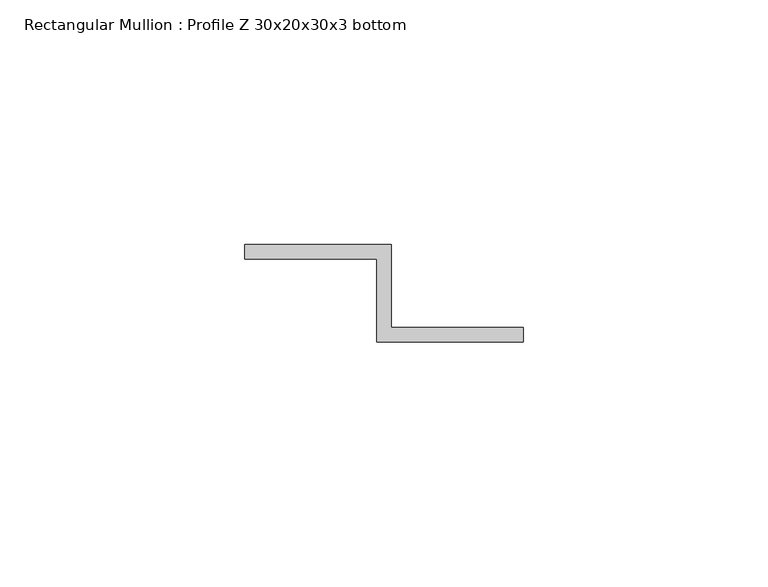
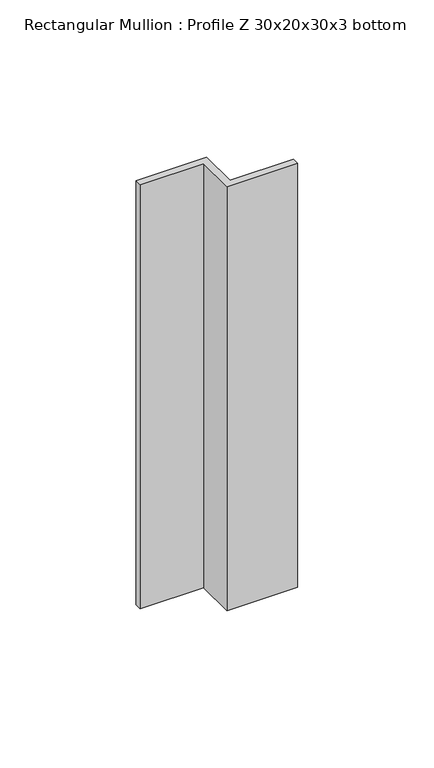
"""IFC4 building model written with IfcOpenShell, lengths in millimetres: member geometry, Rectangular Mullion : Profile Z 30x20x30x3 bottom."""

from ifc_helpers import new_model, si_unit, frame, origin, place, context, project, spatial, polyline, outline, extrude, source, transform, mapped, element, save


def rectangular_mullion_profile_z_30x20x30x3_bottom_b9145eb6(model_context):
    return source(origin(), model_context, "Body", "SweptSolid", [
        extrude(outline(polyline([(-30.5, -29.5), (-30.5, -46.5), (-3.5, -46.5), (-3.5, -49.5), (-33.5, -49.5), (-33.5, -32.5), (-60.5, -32.5), (-60.5, -29.5), (-30.5, -29.5)])), frame((0.0, 0.0, -190.0000003), z_axis=(0.0, 0.0, 1.0), x_axis=(1.0, 0.0, 0.0)), (0.0, 0.0, 1.0), 190.0000003),
    ])


if __name__ == "__main__":
    model = new_model("IFC4")
    model_context = context("Model", 3, world=origin())
    ifc_project = project(units=[si_unit("LENGTHUNIT", "METRE", prefix="MILLI")], contexts=[model_context])
    site = spatial("IfcSite", under=ifc_project)
    building = spatial("IfcBuilding", under=site)
    placement = place(None, origin())
    rectangular_mullion_profile_z_30x20x30x3_bottom_shape = rectangular_mullion_profile_z_30x20x30x3_bottom_b9145eb6(model_context)
    element("IfcMember", 1, ObjectType="Rectangular Mullion : Profile Z 30x20x30x3 bottom", at=placement, inside=building, context=model_context, shape_type="MappedRepresentation", body=[
        mapped(rectangular_mullion_profile_z_30x20x30x3_bottom_shape, transform((0.0, 0.0, 0.0), x_axis=(1.0, 0.0, 0.0), y_axis=(0.0, 1.0, 0.0), z_axis=(0.0, 0.0, 1.0))),
    ])
    save(model, "model.ifc")
